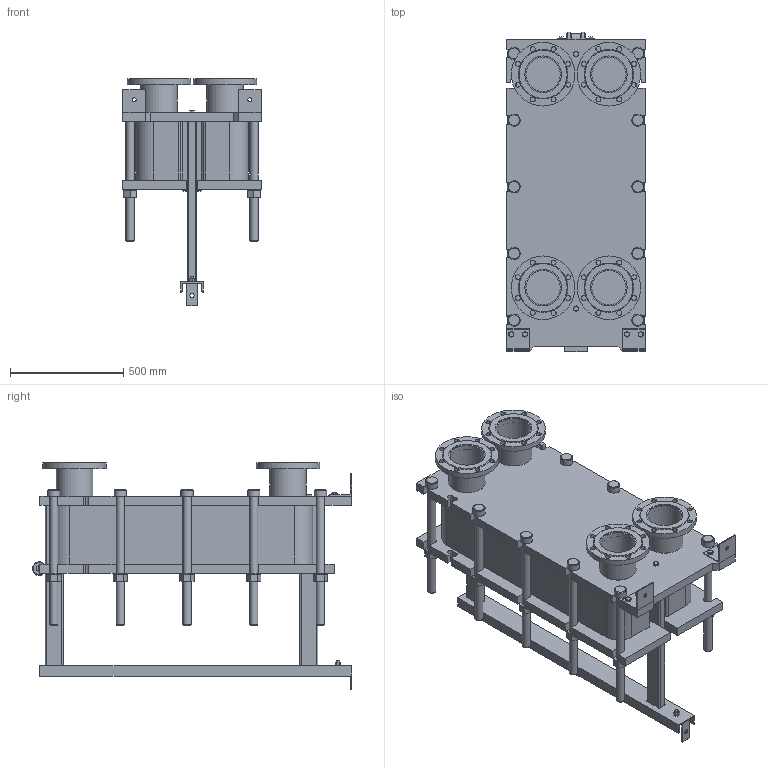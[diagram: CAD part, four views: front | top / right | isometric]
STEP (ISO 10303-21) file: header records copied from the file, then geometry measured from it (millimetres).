
FILE_DESCRIPTION(/* description */ (''),/* implementation_level */ '2;1');
FILE_NAME(/* name */ 'C:\Users\zhuro\Desktop\ENCO\TO\ЭН-041\ЭН-0,5-041-75-1.stp',/* time_stamp */ '2022-06-06T10:55:41+03:00',/* author */ ('zhuro'),/* organization */ (''),/* preprocessor_version */ 'ST-DEVELOPER v18.1',/* originating_system */ 'Autodesk Inventor 2022',/* authorisation */ '');
FILE_SCHEMA (('AUTOMOTIVE_DESIGN { 1 0 10303 214 3 1 1 }'));
Length unit declared in the file: millimetre
Products named in the file (1): ЭН-0,5-041-75-1
Bounding box: 610 x 1406.5 x 1002.5 mm (x, y, z)
Volume: 224246983.8 mm3; surface area: 8473281.6 mm2
Topology: 52 solids, 52 shells, 711 faces, 1696 edges, 1094 vertices
Faces by surface type: plane 487, cylinder 177, cone 41, torus 6
Full cylindrical faces by diameter (mm): 8 x4, 10 x2, 16 x8, 18 x3, 22 x32, 36 x24, 50 x1, 54 x10, 60 x12, 151 x4, 161 x8, 280 x4
Entity records: 22667 total; most frequent: CARTESIAN_POINT 5230, DIRECTION 3644, ORIENTED_EDGE 3392, EDGE_CURVE 1696, AXIS2_PLACEMENT_3D 1272, LINE 1100, VECTOR 1100, VERTEX_POINT 1094
